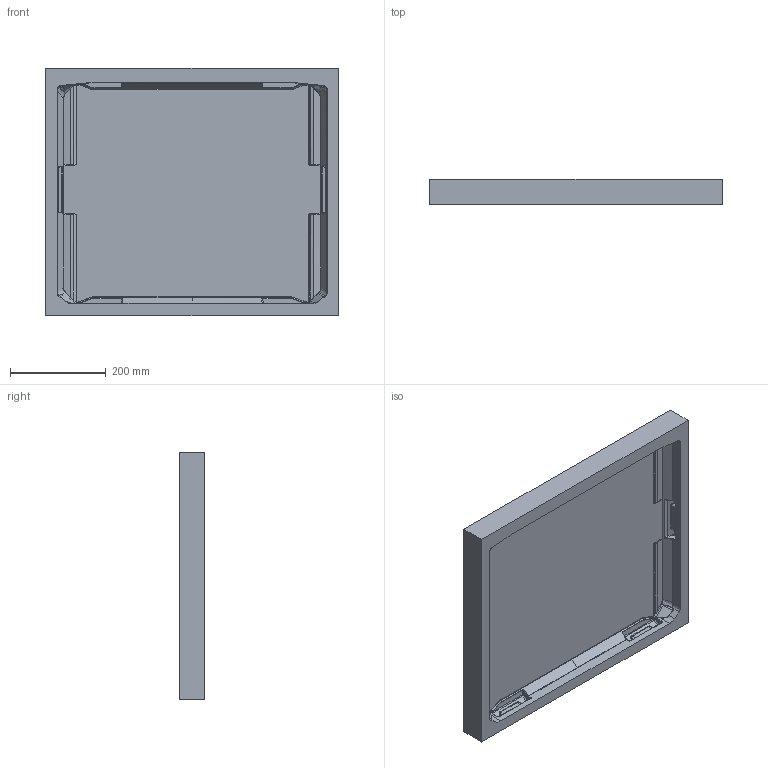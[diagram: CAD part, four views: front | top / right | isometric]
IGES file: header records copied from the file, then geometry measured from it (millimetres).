
Start section: SolidWorks IGES file using analytic representation for surfaces
Global section: file name: C:\Users\chad.chaiyont\My Project\Vault Case\Vault TOR\Vault CAD\PP PID cad\V600 PP\V600 TOP TUB 2-11-2024.IGS; native system: SolidWorks 2021; preprocessor: SolidWorks 2021; author: Chad.Chaiyont; date: 240211.161424; units: millimetre
Bounding box: 609.82 x 52.36 x 517.25 mm (x, y, z)
Surface area: 826894.7 mm2 (no closed solid volume)
Topology: 0 solids, 0 shells, 708 faces, 3776 edges, 3748 vertices
Faces by surface type: bspline 708
